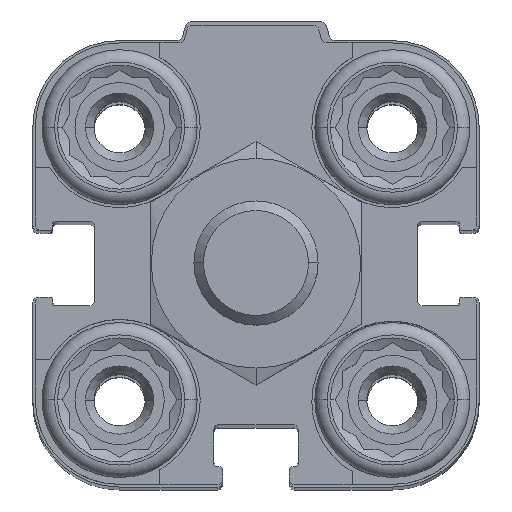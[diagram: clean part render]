
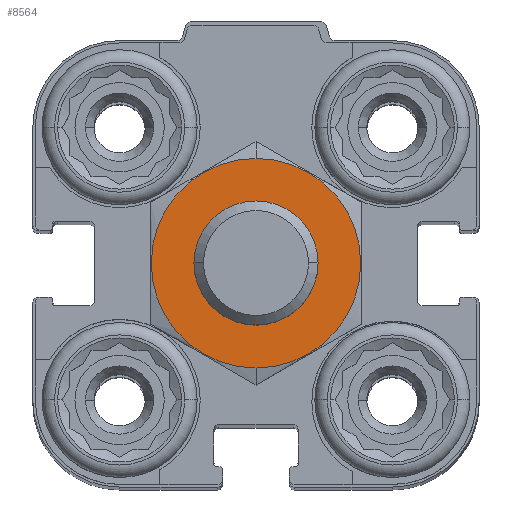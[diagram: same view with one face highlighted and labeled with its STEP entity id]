
A CAD part, top view. The second image highlights one B-rep face of the part: STEP entity #8564.
In plain terms, the highlighted planar face has unit normal (0, 0, 1).
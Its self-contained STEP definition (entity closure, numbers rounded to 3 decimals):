
#58 = VERTEX_POINT ( 'NONE', #6087 ) ;
#553 = DIRECTION ( 'NONE',  ( 0., -1., 0. ) ) ;
#721 = EDGE_LOOP ( 'NONE', ( #738, #19082 ) ) ;
#735 = DIRECTION ( 'NONE',  ( 0., 0., -1. ) ) ;
#738 = ORIENTED_EDGE ( 'NONE', *, *, #1572, .T. ) ;
#962 = FACE_BOUND ( 'NONE', #721, .T. ) ;
#1487 = AXIS2_PLACEMENT_3D ( 'NONE', #7397, #14093, #12540 ) ;
#1572 = EDGE_CURVE ( 'NONE', #7146, #16071, #6435, .T. ) ;
#1773 = ORIENTED_EDGE ( 'NONE', *, *, #15851, .F. ) ;
#2088 = CARTESIAN_POINT ( 'NONE',  ( 0., 0., 13.5 ) ) ;
#2316 = AXIS2_PLACEMENT_3D ( 'NONE', #5157, #16269, #5265 ) ;
#2621 = CARTESIAN_POINT ( 'NONE',  ( 0., 0., 13.5 ) ) ;
#4762 = AXIS2_PLACEMENT_3D ( 'NONE', #8985, #735, #15265 ) ;
#5157 = CARTESIAN_POINT ( 'NONE',  ( 0., 0., 13.5 ) ) ;
#5265 = DIRECTION ( 'NONE',  ( 0., -1., 0. ) ) ;
#5666 = EDGE_LOOP ( 'NONE', ( #1773, #7087 ) ) ;
#6087 = CARTESIAN_POINT ( 'NONE',  ( 0., -8.45, 13.5 ) ) ;
#6435 = CIRCLE ( 'NONE', #15637, 5. ) ;
#6721 = VERTEX_POINT ( 'NONE', #15533 ) ;
#7043 = FACE_OUTER_BOUND ( 'NONE', #5666, .T. ) ;
#7087 = ORIENTED_EDGE ( 'NONE', *, *, #13677, .F. ) ;
#7146 = VERTEX_POINT ( 'NONE', #15606 ) ;
#7397 = CARTESIAN_POINT ( 'NONE',  ( 0., 0., 13.5 ) ) ;
#8564 = ADVANCED_FACE ( 'NONE', ( #7043, #962 ), #13543, .F. ) ;
#8598 = DIRECTION ( 'NONE',  ( 0., 0., -1. ) ) ;
#8623 = EDGE_CURVE ( 'NONE', #16071, #7146, #12196, .T. ) ;
#8985 = CARTESIAN_POINT ( 'NONE',  ( 0., 0., 13.5 ) ) ;
#10341 = DIRECTION ( 'NONE',  ( 0., -1., 0. ) ) ;
#11035 = CIRCLE ( 'NONE', #4762, 8.45 ) ;
#12196 = CIRCLE ( 'NONE', #2316, 5. ) ;
#12540 = DIRECTION ( 'NONE',  ( 0., -1., 0. ) ) ;
#12844 = AXIS2_PLACEMENT_3D ( 'NONE', #2621, #8598, #10341 ) ;
#13543 = PLANE ( 'NONE',  #12844 ) ;
#13677 = EDGE_CURVE ( 'NONE', #6721, #58, #11035, .T. ) ;
#14093 = DIRECTION ( 'NONE',  ( 0., 0., -1. ) ) ;
#14668 = DIRECTION ( 'NONE',  ( 0., 0., -1. ) ) ;
#14888 = CARTESIAN_POINT ( 'NONE',  ( 0., -5., 13.5 ) ) ;
#15265 = DIRECTION ( 'NONE',  ( 0., -1., 0. ) ) ;
#15533 = CARTESIAN_POINT ( 'NONE',  ( 0., 8.45, 13.5 ) ) ;
#15606 = CARTESIAN_POINT ( 'NONE',  ( 0., 5., 13.5 ) ) ;
#15637 = AXIS2_PLACEMENT_3D ( 'NONE', #2088, #14668, #553 ) ;
#15851 = EDGE_CURVE ( 'NONE', #58, #6721, #15945, .T. ) ;
#15945 = CIRCLE ( 'NONE', #1487, 8.45 ) ;
#16071 = VERTEX_POINT ( 'NONE', #14888 ) ;
#16269 = DIRECTION ( 'NONE',  ( 0., 0., -1. ) ) ;
#19082 = ORIENTED_EDGE ( 'NONE', *, *, #8623, .T. ) ;
